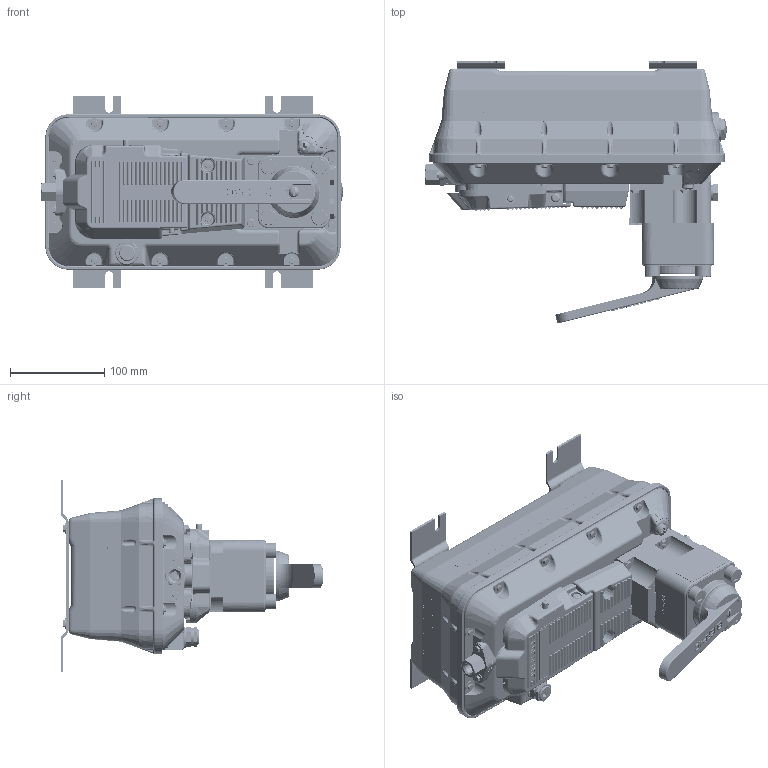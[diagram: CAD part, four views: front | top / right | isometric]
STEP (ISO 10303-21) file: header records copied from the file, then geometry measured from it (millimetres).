
FILE_DESCRIPTION((''),'2;1');
FILE_NAME('PAMG5402NB_ASM','2019-09-23T15:11:29',('mike.ward'),(''),'CREO PARAMETRIC BY PTC INC, 2018400','CREO PARAMETRIC BY PTC INC, 2018400','');
FILE_SCHEMA(('CONFIG_CONTROL_DESIGN'));
Products named in the file (10): REF4908_SW0001_1_1; REF4908_SW0001_1_7; REF4908_SW0001_1_8; REF4908_SW0001_1_9; REF4908_SW0001_1_10; REF4908_SW0001_1_11; REF4908_SW0001_1_12; REF4908_SW0001_1_13; REF4908_SW0001_1_ASM; PAMG5402NB_ASM
Assembly tree (9 placements, depth 3):
  PAMG5402NB_ASM
    REF4908_SW0001_1_ASM
      REF4908_SW0001_1_1
      REF4908_SW0001_1_7
      REF4908_SW0001_1_8
      REF4908_SW0001_1_9
      REF4908_SW0001_1_10
      REF4908_SW0001_1_11
      REF4908_SW0001_1_12
      REF4908_SW0001_1_13
Bounding box: 320.04 x 278.29 x 203.24 mm (x, y, z)
Volume: 1129607.8 mm3; surface area: 673844.1 mm2
Topology: 8 solids, 14 shells, 7771 faces, 20959 edges, 13486 vertices
Faces by surface type: plane 4893, cylinder 1473, cone 495, torus 428, bspline 316, sphere 138, extrusion 28
Entity records: 278783 total; most frequent: CARTESIAN_POINT 86614, ORIENTED_EDGE 41586, DIRECTION 37600, EDGE_CURVE 20793, VECTOR 13856, LINE 13828, VERTEX_POINT 13484, AXIS2_PLACEMENT_3D 11872
